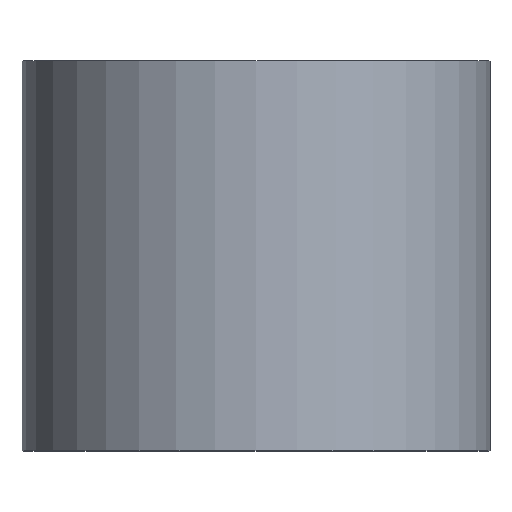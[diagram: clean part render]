
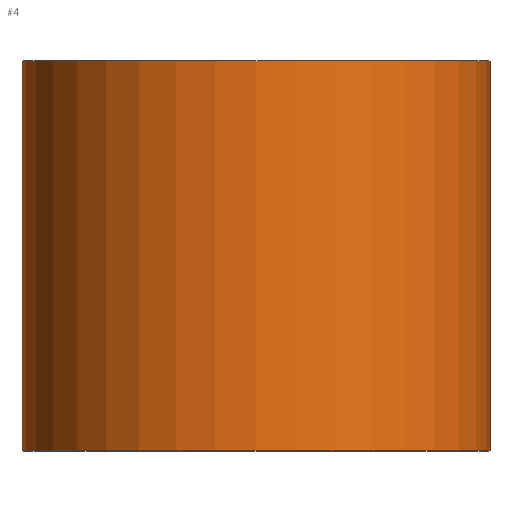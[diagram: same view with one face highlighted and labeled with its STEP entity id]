
A CAD part, top view. The second image highlights one B-rep face of the part: STEP entity #4.
In plain terms, the highlighted cylindrical face has radius 6 mm (diameter 12 mm), a partial arc.
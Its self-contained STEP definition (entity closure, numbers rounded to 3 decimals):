
#4 = ADVANCED_FACE ( 'NONE', ( #179 ), #182, .T. ) ;
#22 = LINE ( 'NONE', #76, #187 ) ;
#25 = EDGE_CURVE ( 'NONE', #264, #230, #22, .T. ) ;
#29 = EDGE_CURVE ( 'NONE', #99, #230, #178, .T. ) ;
#41 = AXIS2_PLACEMENT_3D ( 'NONE', #259, #170, #127 ) ;
#46 = EDGE_CURVE ( 'NONE', #252, #99, #93, .T. ) ;
#53 = CARTESIAN_POINT ( 'NONE',  ( 0., 0., 0. ) ) ;
#56 = DIRECTION ( 'NONE',  ( 0., 1., 0. ) ) ;
#72 = CARTESIAN_POINT ( 'NONE',  ( -6., 0., 0. ) ) ;
#76 = CARTESIAN_POINT ( 'NONE',  ( 6., 0., 0. ) ) ;
#87 = DIRECTION ( 'NONE',  ( -1., 0., 0. ) ) ;
#90 = EDGE_CURVE ( 'NONE', #252, #264, #126, .T. ) ;
#93 = LINE ( 'NONE', #128, #141 ) ;
#99 = VERTEX_POINT ( 'NONE', #145 ) ;
#100 = AXIS2_PLACEMENT_3D ( 'NONE', #257, #282, #87 ) ;
#126 = CIRCLE ( 'NONE', #100, 6. ) ;
#127 = DIRECTION ( 'NONE',  ( -1., 0., 0. ) ) ;
#128 = CARTESIAN_POINT ( 'NONE',  ( -6., 0., 0. ) ) ;
#139 = AXIS2_PLACEMENT_3D ( 'NONE', #53, #204, #277 ) ;
#141 = VECTOR ( 'NONE', #56, 1000. ) ;
#145 = CARTESIAN_POINT ( 'NONE',  ( -6., 10., 0. ) ) ;
#161 = ORIENTED_EDGE ( 'NONE', *, *, #29, .F. ) ;
#162 = DIRECTION ( 'NONE',  ( 0., 1., 0. ) ) ;
#163 = ORIENTED_EDGE ( 'NONE', *, *, #25, .T. ) ;
#165 = CARTESIAN_POINT ( 'NONE',  ( 6., 10., 0. ) ) ;
#170 = DIRECTION ( 'NONE',  ( 0., 1., 0. ) ) ;
#178 = CIRCLE ( 'NONE', #41, 6. ) ;
#179 = FACE_OUTER_BOUND ( 'NONE', #287, .T. ) ;
#182 = CYLINDRICAL_SURFACE ( 'NONE', #139, 6. ) ;
#187 = VECTOR ( 'NONE', #162, 1000. ) ;
#200 = ORIENTED_EDGE ( 'NONE', *, *, #46, .F. ) ;
#204 = DIRECTION ( 'NONE',  ( 0., 1., 0. ) ) ;
#230 = VERTEX_POINT ( 'NONE', #165 ) ;
#235 = CARTESIAN_POINT ( 'NONE',  ( 6., 0., 0. ) ) ;
#252 = VERTEX_POINT ( 'NONE', #72 ) ;
#257 = CARTESIAN_POINT ( 'NONE',  ( 0., 0., 0. ) ) ;
#259 = CARTESIAN_POINT ( 'NONE',  ( 0., 10., 0. ) ) ;
#264 = VERTEX_POINT ( 'NONE', #235 ) ;
#277 = DIRECTION ( 'NONE',  ( -1., 0., 0. ) ) ;
#282 = DIRECTION ( 'NONE',  ( 0., 1., 0. ) ) ;
#283 = ORIENTED_EDGE ( 'NONE', *, *, #90, .T. ) ;
#287 = EDGE_LOOP ( 'NONE', ( #283, #163, #161, #200 ) ) ;
